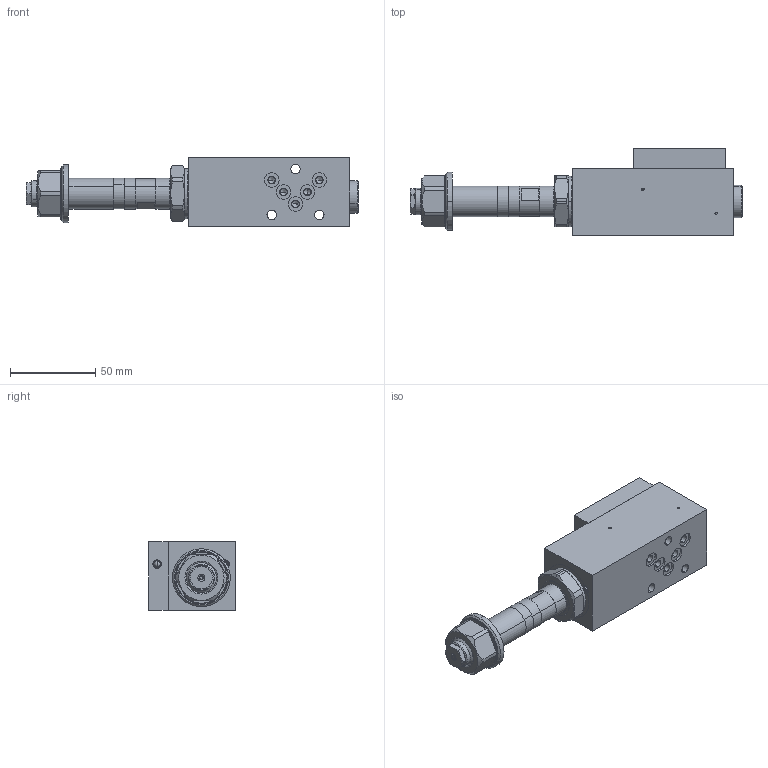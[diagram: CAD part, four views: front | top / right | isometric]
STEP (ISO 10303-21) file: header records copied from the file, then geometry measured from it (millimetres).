
FILE_DESCRIPTION (( 'STEP AP214' ), '1' );
FILE_NAME ('B.BFA04-P.STEP', '2017-03-23T14:59:08', ( '' ), ( '' ), 'SwSTEP 2.0', 'SolidWorks 2016', '' );
FILE_SCHEMA (( 'AUTOMOTIVE_DESIGN' ));
Length unit declared in the file: millimetre
Products named in the file (1): B.BFA04-P
Bounding box: 195 x 51 x 40 mm (x, y, z)
Volume: 203133.1 mm3; surface area: 42280.7 mm2
Topology: 4 solids, 8 shells, 355 faces, 841 edges, 515 vertices
Faces by surface type: cylinder 138, plane 102, cone 87, torus 20, sphere 8
Entity records: 14364 total; most frequent: CARTESIAN_POINT 2066, DIRECTION 1884, ORIENTED_EDGE 1626, EDGE_CURVE 813, AXIS2_PLACEMENT_3D 777, VERTEX_POINT 515, CIRCLE 421, EDGE_LOOP 420
